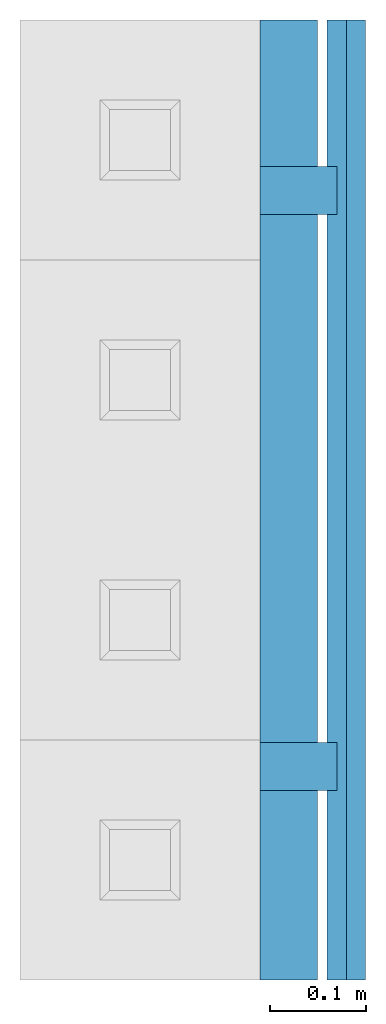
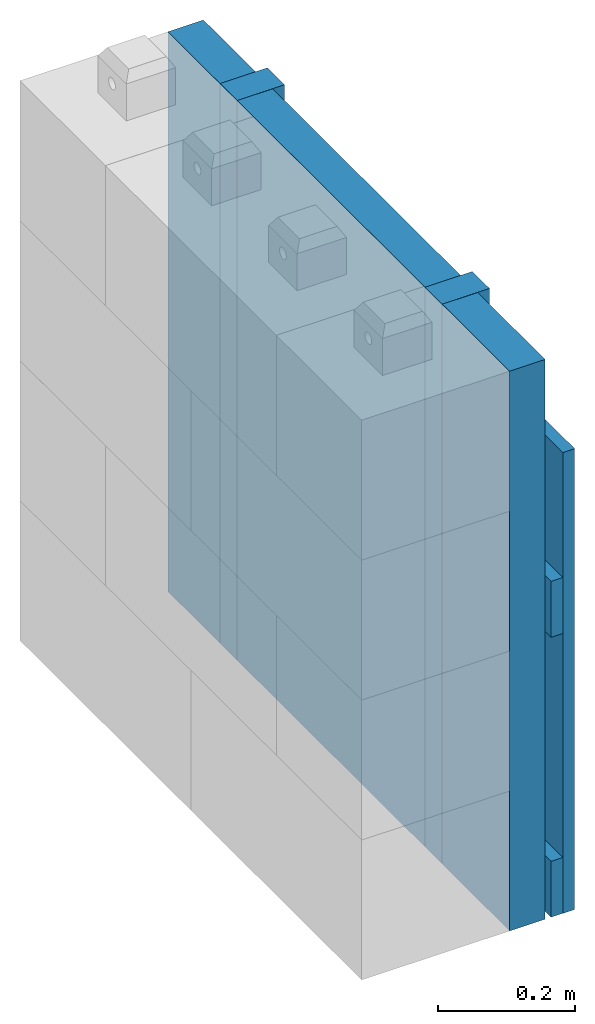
# One storey, incomplete: 5 walls, 1 opening.
"""IFC4 building model written with IfcOpenShell, lengths in centimetres."""

from ifc_helpers import new_model, entity, si_unit, converted_unit, direction, frame, origin, place, context, subcontext, project, spatial, indexed_curve, outline, extrude, material, constituent, constituent_set, type_object, element, save


model = new_model("IFC4")

# Units and contexts
model_context = context("Model", 3, precision=0.001, world=origin(), true_north=direction((0.0, 1.0)))
body_context = subcontext(model_context, "Body", "Model", "MODEL_VIEW")
ifc_project = project(units=[si_unit("LENGTHUNIT", "METRE", prefix="CENTI"), si_unit("AREAUNIT", "SQUARE_METRE"), si_unit("VOLUMEUNIT", "CUBIC_METRE"), converted_unit("PLANEANGLEUNIT", "DEGREE", entity("IfcPlaneAngleMeasure", 0.017453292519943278), si_unit("PLANEANGLEUNIT", "RADIAN"), dimensions=[0, 0, 0, 0, 0, 0, 0])], contexts=[model_context])

# Site, building, storey
site_placement = place(None, origin())
site = spatial("IfcSite", under=ifc_project, at=site_placement, Name="Default", CompositionType="ELEMENT")
building_placement = place(site_placement, origin())
building = spatial("IfcBuilding", under=site, at=building_placement, CompositionType="ELEMENT")
storey_placement = place(building_placement, frame((0.0, 0.0, -12.0)))
storey = spatial("IfcBuildingStorey", under=building, at=storey_placement, Name="L00__ABOVE Slab", CompositionType="ELEMENT", Elevation=-12.000000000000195)

# Walls
ifc_material_1 = material(Name="_FCD VENT LAYERS__Insulation__MW, CS(10/y)≥0.5 w/ Wind-proof Veil__Rockwool Airrock HD FB1")
ifc_constituent = constituent(ifc_material_1, Name="_FCD VENT LAYERS__Insulation__MW, CS(10/y)≥0.5 w/ Wind-proof Veil__Rockwool Airrock HD FB1", fraction=1.0)
ifc_constituent_set = constituent_set(constituents=[ifc_constituent], Name="Basic Wall:wll__EXT ENCLOSURE__Ventilated, Wood Insulation 6cm__TriqBriq 2")
wall_type_1 = type_object("IfcWallType", Name="Walls : Basic Wall : wll__EXT ENCLOSURE__Ventilated, Wood Insulation 6cm__TriqBriq 2", PredefinedType="STANDARD", material=ifc_constituent_set)
wall_1_placement = place(storey_placement, frame((4858.98414850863, 1961.7726455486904, 10.0), z_axis=(0.0, 0.0, 1.0), x_axis=(0.0, -1.0, 0.0)))
element("IfcWall", 1, at=wall_1_placement, inside=storey, type_object=wall_type_1, material=ifc_constituent_set, Name="Walls : Basic Wall : wll__EXT ENCLOSURE__Ventilated, Wood Insulation 6cm__TriqBriq 2", PredefinedType="NOTDEFINED", context=body_context, shape_type="SweptSolid", body=[
    extrude(outline(indexed_curve([(-3.0000000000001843, -9.87499999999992), (3.0000000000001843, -9.87499999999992), (3.0000000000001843, 9.875000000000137), (-3.0000000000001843, 9.875000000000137), (-3.0000000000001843, -9.87499999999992)], self_intersect=False)), frame((90.1250000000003, 0.0, 0.0), z_axis=(0.0, 0.0, 1.0), x_axis=(0.0, 1.0, 0.0)), (0.0, 0.0, 1.0), 100.00000000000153),
    extrude(outline(indexed_curve([(-3.0000000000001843, -7.624999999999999), (3.0000000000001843, -7.624999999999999), (3.0000000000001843, 7.6250000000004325), (-3.0000000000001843, 7.6250000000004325), (-3.0000000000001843, -7.624999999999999)], self_intersect=False)), frame((7.6250000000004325, 0.0, 0.0), z_axis=(0.0, 0.0, 1.0), x_axis=(0.0, 1.0, 0.0)), (0.0, 0.0, 1.0), 100.00000000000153),
    extrude(outline(indexed_curve([(-3.0000000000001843, -27.50000000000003), (3.0000000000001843, -27.50000000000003), (3.0000000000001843, 27.49999999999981), (-3.0000000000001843, 27.49999999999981), (-3.0000000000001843, -27.50000000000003)], self_intersect=False)), frame((47.75000000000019, 0.0, 0.0), z_axis=(0.0, 0.0, 1.0), x_axis=(0.0, 1.0, 0.0)), (0.0, 0.0, 1.0), 100.00000000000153),
])
ifc_material_2 = material(Name="_STRUCTURE__WoodVertical")
wall_type_2 = type_object("IfcWallType", Name="Walls : Basic Wall : wll__EXT__Holzfassafenprofil1__TriqBriq", PredefinedType="STANDARD")
wall_2_placement = place(storey_placement, frame((4865.984148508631, 1961.7726455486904, 10.0), z_axis=(0.0, 0.0, 1.0), x_axis=(0.0, -1.0, 0.0)))
element("IfcWall", 2, at=wall_2_placement, inside=storey, type_object=wall_type_2, material=ifc_material_2, Name="Walls : Basic Wall : wll__EXT__Holzfassafenprofil1__TriqBriq", PredefinedType="NOTDEFINED", context=body_context, shape_type="SweptSolid", body=[
    extrude(outline(indexed_curve([(100.00000000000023, 0.9999999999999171), (-1.4438228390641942e-15, 0.9999999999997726), (1.4438228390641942e-15, -0.9999999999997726), (100.00000000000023, -0.9999999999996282), (100.00000000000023, 0.9999999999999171)], self_intersect=False)), origin(), (0.0, 0.0, 1.0), 82.30755502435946),
])

# Wall, opening
ifc_material_3 = material(Name="_STRUCTURE__Wood Solid")
wall_type_3 = type_object("IfcWallType", Name="Walls : Basic Wall : wll__EXT COVERING__Wood 2cm", PredefinedType="STANDARD")
wall_3_placement = place(storey_placement, frame((4863.98414850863, 1961.7726455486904, 10.0), z_axis=(0.0, 0.0, 1.0), x_axis=(0.0, -1.0, 0.0)))
wall_3 = element("IfcWall", 3, at=wall_3_placement, inside=storey, type_object=wall_type_3, material=ifc_material_3, Name="Walls : Basic Wall : wll__EXT COVERING__Wood 2cm", PredefinedType="NOTDEFINED", context=body_context, shape_type="SweptSolid", body=[
    extrude(outline(indexed_curve([(-0.9999999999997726, -49.99999999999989), (0.9999999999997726, -49.99999999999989), (1.000000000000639, 50.00000000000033), (-0.9999999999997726, 50.00000000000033), (-0.9999999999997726, -49.99999999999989)], self_intersect=False)), frame((50.0, 0.0, 0.0), z_axis=(0.0, 0.0, 1.0), x_axis=(0.0, 1.0, 0.0)), (0.0, 0.0, 1.0), 10.000000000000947),
    extrude(outline(indexed_curve([(-0.9999999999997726, -49.99999999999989), (0.9999999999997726, -49.99999999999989), (1.000000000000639, 50.00000000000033), (-0.9999999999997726, 50.00000000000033), (-0.9999999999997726, -49.99999999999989)], self_intersect=False)), frame((50.0, 0.0, 50.0), z_axis=(0.0, 0.0, 1.0), x_axis=(0.0, 1.0, 0.0)), (0.0, 0.0, 1.0), 10.000000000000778),
])
opening_placement = place(wall_3_placement, frame((1961.7726455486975, -4863.984148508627, 2.0)))
element("IfcOpeningElement", 4, at=opening_placement, cuts=wall_3, Name="Walls : Basic Wall : wll__EXT COVERING__Wood 2cm", PredefinedType="OPENING", context=body_context, shape_type="SweptSolid", body=[
    extrude(outline(indexed_curve([(-50.0000000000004, -19.999999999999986), (50.00000000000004, -19.999999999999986), (50.00000000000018, 20.0), (-50.000000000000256, 20.0), (-50.0000000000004, -19.999999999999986)], self_intersect=False)), frame((-1911.7726455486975, 4364.984148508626, 78.0), z_axis=(0.0, 1.0, 0.0), x_axis=(1.0, 0.0, 0.0)), (0.0, 0.0, 1.0), 499.99999999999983),
    extrude(outline(indexed_curve([(-50.0000000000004, -19.99999999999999), (50.00000000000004, -19.99999999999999), (50.00000000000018, 19.99999999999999), (-50.000000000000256, 19.99999999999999), (-50.0000000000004, -19.99999999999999)], self_intersect=False)), frame((-1911.7726455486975, 4364.984148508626, 28.0), z_axis=(0.0, 1.0, 0.0), x_axis=(1.0, 0.0, 0.0)), (0.0, 0.0, 1.0), 499.99999999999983),
])

# Walls
wall_type_4 = type_object("IfcWallType", Name="Walls : Basic Wall : wll__EXT COVERING__Wood 8cm 4", PredefinedType="STANDARD")
for number, where, z_axis, x_axis, name in (
    (5, (4859.984148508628, 1886.5226455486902, 10.0), (0.0, 0.0, 1.0), (0.0, -1.0, 0.0), "Walls : Basic Wall : wll__EXT COVERING__Wood 8cm 4"),
    (6, (4859.984148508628, 1946.52264554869, 10.0), (0.0, 0.0, 1.0), (0.0, -1.0, 0.0), "Walls : Basic Wall : wll__EXT COVERING__Wood 8cm 4"),
):
    element("IfcWall", number, at=place(storey_placement, frame(where, z_axis=z_axis, x_axis=x_axis)), inside=storey, type_object=wall_type_4, material=ifc_material_3, Name=name, PredefinedType="NOTDEFINED", context=body_context, shape_type="SweptSolid", body=[
        extrude(outline(indexed_curve([(4.9999999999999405, 3.9999999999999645), (-5.775291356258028e-15, 3.999999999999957), (5.775291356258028e-15, -3.999999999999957), (4.999999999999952, -3.9999999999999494), (4.9999999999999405, 3.9999999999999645)], self_intersect=False)), origin(), (0.0, 0.0, 1.0), 100.00000000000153),
    ])

save(model, "model.ifc")
